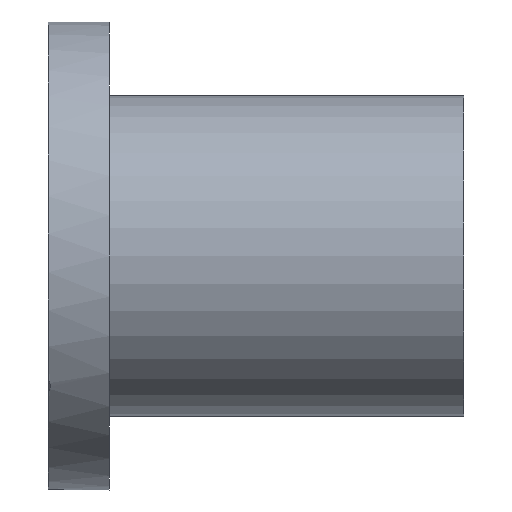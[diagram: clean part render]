
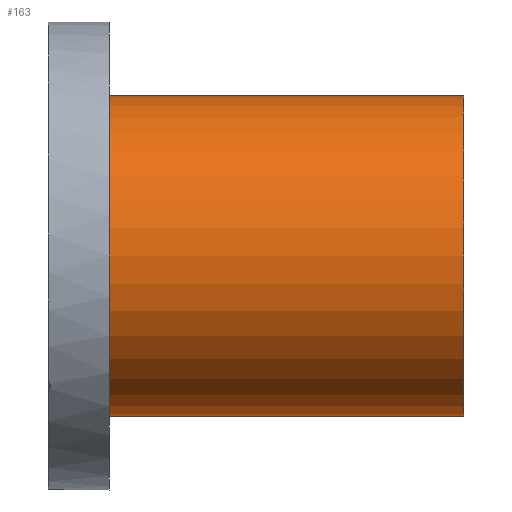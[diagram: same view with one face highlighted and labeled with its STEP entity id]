
A CAD part, front view. The second image highlights one B-rep face of the part: STEP entity #163.
In plain terms, the highlighted cylindrical face has radius 52 mm (diameter 104 mm), a full revolution.
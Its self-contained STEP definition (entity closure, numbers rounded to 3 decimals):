
#163 = ADVANCED_FACE( '', ( #329, #330 ), #331, .T. );
#329 = FACE_OUTER_BOUND( '', #529, .T. );
#330 = FACE_OUTER_BOUND( '', #530, .T. );
#331 = CYLINDRICAL_SURFACE( '', #531, 52. );
#529 = EDGE_LOOP( '', ( #730 ) );
#530 = EDGE_LOOP( '', ( #731 ) );
#531 = AXIS2_PLACEMENT_3D( '', #732, #733, #734 );
#730 = ORIENTED_EDGE( '', *, *, #920, .F. );
#731 = ORIENTED_EDGE( '', *, *, #924, .T. );
#732 = CARTESIAN_POINT( '', ( 125.5, 0., 0. ) );
#733 = DIRECTION( '', ( -1., 0., 0. ) );
#734 = DIRECTION( '', ( 0., 0., 1. ) );
#920 = EDGE_CURVE( '', #1038, #1038, #1039, .T. );
#924 = EDGE_CURVE( '', #1044, #1044, #1045, .T. );
#1038 = VERTEX_POINT( '', #1233 );
#1039 = CIRCLE( '', #1234, 52. );
#1044 = VERTEX_POINT( '', #1239 );
#1045 = CIRCLE( '', #1240, 52. );
#1233 = CARTESIAN_POINT( '', ( 0., 52., 0. ) );
#1234 = AXIS2_PLACEMENT_3D( '', #1398, #1399, #1400 );
#1239 = CARTESIAN_POINT( '', ( 125.5, 52., 0. ) );
#1240 = AXIS2_PLACEMENT_3D( '', #1404, #1405, #1406 );
#1398 = CARTESIAN_POINT( '', ( 0., 0., 0. ) );
#1399 = DIRECTION( '', ( -1., 0., 0. ) );
#1400 = DIRECTION( '', ( 0., 1., 0. ) );
#1404 = CARTESIAN_POINT( '', ( 125.5, 0., 0. ) );
#1405 = DIRECTION( '', ( -1., 0., 0. ) );
#1406 = DIRECTION( '', ( 0., 1., 0. ) );
